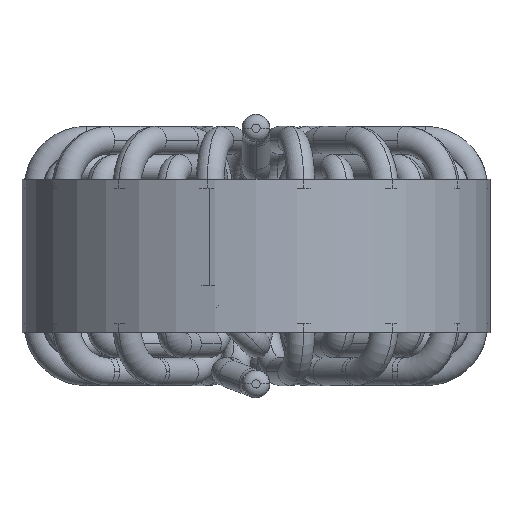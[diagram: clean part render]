
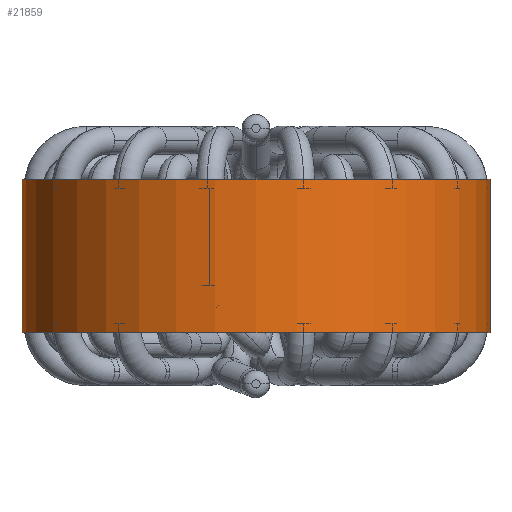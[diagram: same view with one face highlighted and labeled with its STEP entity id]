
A CAD part, front view. The second image highlights one B-rep face of the part: STEP entity #21859.
In plain terms, the highlighted cylindrical face has radius 24.4 mm (diameter 48.8 mm), a partial arc.
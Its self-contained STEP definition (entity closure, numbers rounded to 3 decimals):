
#26 = EDGE_CURVE ( 'NONE', #26254, #5233, #33824, .T. ) ;
#219 = VECTOR ( 'NONE', #30120, 1000. ) ;
#760 = CARTESIAN_POINT ( 'NONE',  ( -24.4, 0., 8. ) ) ;
#1443 = DIRECTION ( 'NONE',  ( 0., 0., -1. ) ) ;
#1527 = CARTESIAN_POINT ( 'NONE',  ( 0., 0., -8. ) ) ;
#4228 = CARTESIAN_POINT ( 'NONE',  ( 0., 0., 8. ) ) ;
#4331 = EDGE_CURVE ( 'NONE', #26254, #25091, #27982, .T. ) ;
#5233 = VERTEX_POINT ( 'NONE', #29871 ) ;
#5822 = EDGE_LOOP ( 'NONE', ( #19929, #30152, #10608, #33460 ) ) ;
#7617 = DIRECTION ( 'NONE',  ( 0., 0., 1. ) ) ;
#9633 = VERTEX_POINT ( 'NONE', #23552 ) ;
#10608 = ORIENTED_EDGE ( 'NONE', *, *, #4331, .T. ) ;
#13194 = DIRECTION ( 'NONE',  ( 1., 0., 0. ) ) ;
#13659 = CARTESIAN_POINT ( 'NONE',  ( 0., 0., 8. ) ) ;
#13989 = AXIS2_PLACEMENT_3D ( 'NONE', #4228, #1443, #24688 ) ;
#16606 = DIRECTION ( 'NONE',  ( 1., 0., 0. ) ) ;
#17575 = CIRCLE ( 'NONE', #21298, 24.4 ) ;
#19929 = ORIENTED_EDGE ( 'NONE', *, *, #35855, .F. ) ;
#21298 = AXIS2_PLACEMENT_3D ( 'NONE', #1527, #7617, #13194 ) ;
#21859 = ADVANCED_FACE ( 'NONE', ( #28447 ), #37147, .T. ) ;
#23552 = CARTESIAN_POINT ( 'NONE',  ( 24.4, 0., -8. ) ) ;
#24688 = DIRECTION ( 'NONE',  ( -1., 0., 0. ) ) ;
#25091 = VERTEX_POINT ( 'NONE', #33600 ) ;
#25992 = CARTESIAN_POINT ( 'NONE',  ( 24.4, 0., 8. ) ) ;
#26254 = VERTEX_POINT ( 'NONE', #760 ) ;
#27632 = AXIS2_PLACEMENT_3D ( 'NONE', #13659, #34286, #16606 ) ;
#27982 = LINE ( 'NONE', #35608, #219 ) ;
#28447 = FACE_OUTER_BOUND ( 'NONE', #5822, .T. ) ;
#29871 = CARTESIAN_POINT ( 'NONE',  ( 24.4, 0., 8. ) ) ;
#30120 = DIRECTION ( 'NONE',  ( 0., 0., -1. ) ) ;
#30152 = ORIENTED_EDGE ( 'NONE', *, *, #26, .F. ) ;
#32891 = VECTOR ( 'NONE', #37511, 1000. ) ;
#33460 = ORIENTED_EDGE ( 'NONE', *, *, #37335, .T. ) ;
#33600 = CARTESIAN_POINT ( 'NONE',  ( -24.4, 0., -8. ) ) ;
#33824 = CIRCLE ( 'NONE', #27632, 24.4 ) ;
#34286 = DIRECTION ( 'NONE',  ( 0., 0., 1. ) ) ;
#35608 = CARTESIAN_POINT ( 'NONE',  ( -24.4, 0., 8. ) ) ;
#35652 = LINE ( 'NONE', #25992, #32891 ) ;
#35855 = EDGE_CURVE ( 'NONE', #5233, #9633, #35652, .T. ) ;
#37147 = CYLINDRICAL_SURFACE ( 'NONE', #13989, 24.4 ) ;
#37335 = EDGE_CURVE ( 'NONE', #25091, #9633, #17575, .T. ) ;
#37511 = DIRECTION ( 'NONE',  ( 0., 0., -1. ) ) ;
